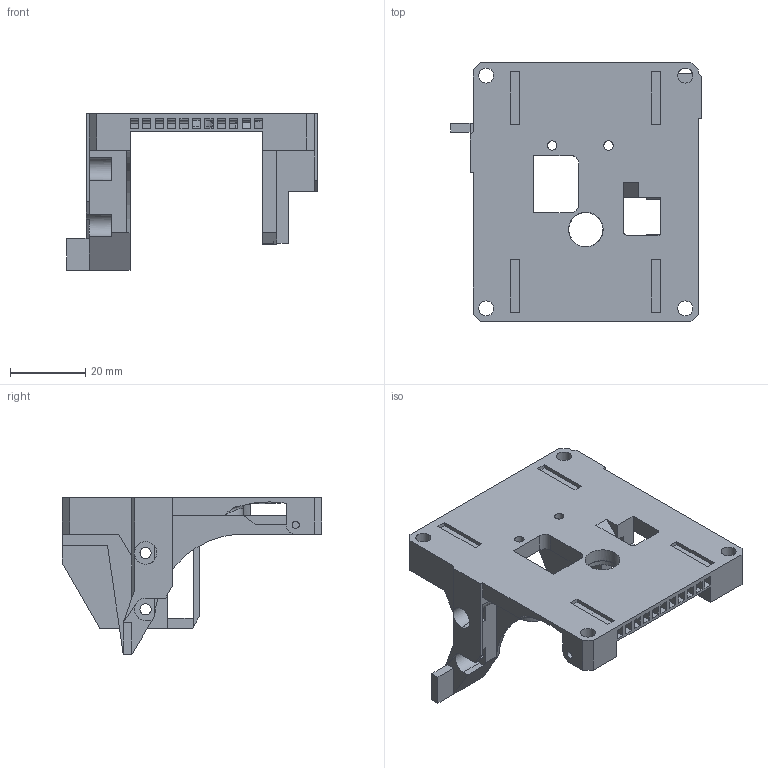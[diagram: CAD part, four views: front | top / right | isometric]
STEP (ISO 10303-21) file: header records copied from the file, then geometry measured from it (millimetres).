
FILE_DESCRIPTION(('STEP AP214'), '1');
FILE_NAME('27.10 íèæíÿÿ ÷àñòü', '', ('UNSPECIFIED'), ('UNSPECIFIED'), 'C3D Converter', 'C3D Toolkit', '');
FILE_SCHEMA(('AUTOMOTIVE_DESIGN { 1 0 10303 214 3 1 1}'));
Length unit declared in the file: millimetre
Bounding box: 66.8 x 69 x 41.75 mm (x, y, z)
Volume: 24621.8 mm3; surface area: 17387.4 mm2
Topology: 1 solids, 1 shells, 255 faces, 763 edges, 501 vertices
Faces by surface type: plane 207, cylinder 46, torus 1, bspline 1
Full cylindrical faces by diameter (mm): 1.9 x8, 2.5 x2, 3 x4, 4 x5, 6 x3, 9.25 x1
Entity records: 10934 total; most frequent: CARTESIAN_POINT 1873, ORIENTED_EDGE 1480, DIRECTION 1361, EDGE_CURVE 740, LINE 607, VECTOR 607, VERTEX_POINT 501, AXIS2_PLACEMENT_3D 377
